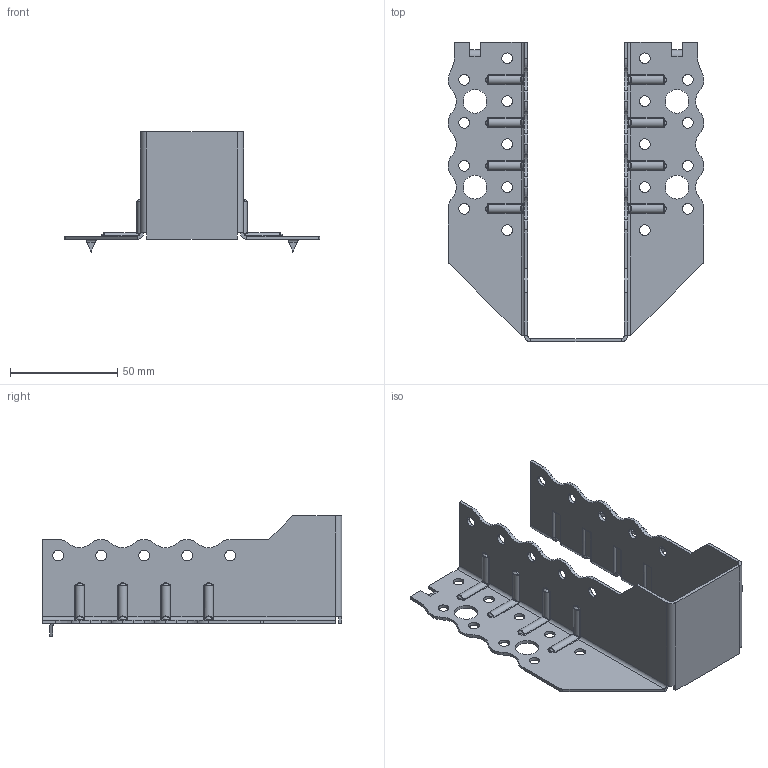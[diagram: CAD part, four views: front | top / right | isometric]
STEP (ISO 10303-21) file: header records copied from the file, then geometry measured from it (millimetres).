
FILE_DESCRIPTION (( 'STEP AP203' ), '1' );
FILE_NAME ('30606TOPK.STEP', '2021-04-21T10:45:12', ( '' ), ( '' ), 'SwSTEP 2.0', 'SolidWorks 2013', '' );
FILE_SCHEMA (( 'CONFIG_CONTROL_DESIGN' ));
Length unit declared in the file: millimetre
Products named in the file (1): 30606TOPK
Bounding box: 119 x 139.5 x 56 mm (x, y, z)
Volume: 30655.8 mm3; surface area: 43634 mm2
Topology: 1 solids, 1 shells, 509 faces, 1269 edges, 762 vertices
Faces by surface type: cylinder 251, bspline 120, plane 106, torus 16, sphere 16
Entity records: 22882 total; most frequent: CARTESIAN_POINT 11293, ORIENTED_EDGE 2538, DIRECTION 2267, EDGE_CURVE 1269, AXIS2_PLACEMENT_3D 864, VERTEX_POINT 762, EDGE_LOOP 573, VECTOR 539
